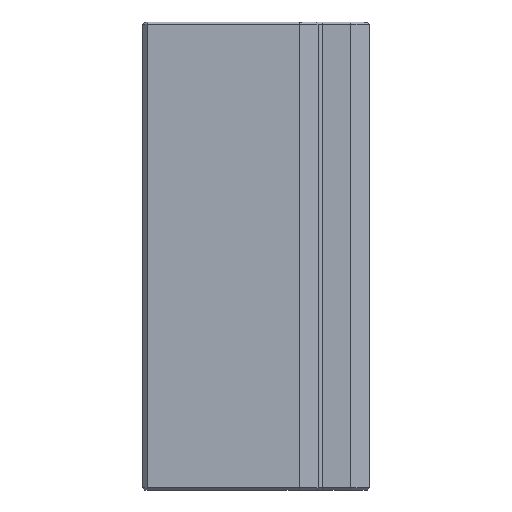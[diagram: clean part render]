
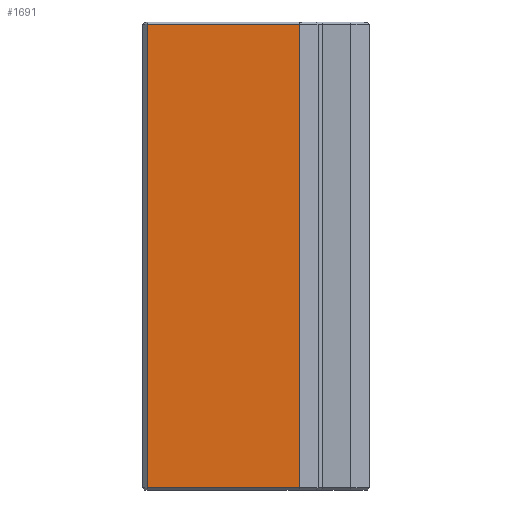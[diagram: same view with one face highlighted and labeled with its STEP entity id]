
A CAD part, left-side view. The second image highlights one B-rep face of the part: STEP entity #1691.
In plain terms, the highlighted planar face has unit normal (-1, 0, 0).
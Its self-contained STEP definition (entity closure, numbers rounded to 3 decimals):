
#261 = CARTESIAN_POINT ( 'NONE',  ( -24.202, -24.563, 100. ) ) ;
#399 = CARTESIAN_POINT ( 'NONE',  ( -24.202, -24.563, -99. ) ) ;
#976 = ORIENTED_EDGE ( 'NONE', *, *, #4157, .T. ) ;
#1102 = LINE ( 'NONE', #8691, #3572 ) ;
#1112 = DIRECTION ( 'NONE',  ( 0., 0., -1. ) ) ;
#1279 = DIRECTION ( 'NONE',  ( 0., -1., 0. ) ) ;
#1667 = CARTESIAN_POINT ( 'NONE',  ( -24.202, -24.563, 99. ) ) ;
#1691 = ADVANCED_FACE ( 'NONE', ( #12599 ), #2444, .F. ) ;
#2444 = PLANE ( 'NONE',  #6625 ) ;
#2905 = VERTEX_POINT ( 'NONE', #12179 ) ;
#3067 = ORIENTED_EDGE ( 'NONE', *, *, #8218, .T. ) ;
#3493 = CARTESIAN_POINT ( 'NONE',  ( -24.202, -24.563, 100. ) ) ;
#3572 = VECTOR ( 'NONE', #1279, 1000. ) ;
#3828 = VERTEX_POINT ( 'NONE', #399 ) ;
#4157 = EDGE_CURVE ( 'NONE', #8532, #5874, #8276, .T. ) ;
#4545 = DIRECTION ( 'NONE',  ( 0., 0., -1. ) ) ;
#4969 = LINE ( 'NONE', #9567, #12736 ) ;
#5501 = DIRECTION ( 'NONE',  ( 0., 0., -1. ) ) ;
#5650 = EDGE_CURVE ( 'NONE', #8532, #3828, #9208, .T. ) ;
#5874 = VERTEX_POINT ( 'NONE', #13390 ) ;
#6239 = DIRECTION ( 'NONE',  ( 0., 1., 0. ) ) ;
#6625 = AXIS2_PLACEMENT_3D ( 'NONE', #3493, #10886, #4545 ) ;
#8154 = EDGE_LOOP ( 'NONE', ( #3067, #12365, #11812, #976 ) ) ;
#8218 = EDGE_CURVE ( 'NONE', #5874, #2905, #4969, .T. ) ;
#8276 = LINE ( 'NONE', #8319, #10718 ) ;
#8319 = CARTESIAN_POINT ( 'NONE',  ( -24.202, 40.437, 99. ) ) ;
#8532 = VERTEX_POINT ( 'NONE', #1667 ) ;
#8691 = CARTESIAN_POINT ( 'NONE',  ( -24.202, -24.563, -99. ) ) ;
#9208 = LINE ( 'NONE', #261, #11990 ) ;
#9567 = CARTESIAN_POINT ( 'NONE',  ( -24.202, 40.437, 100. ) ) ;
#10718 = VECTOR ( 'NONE', #6239, 1000. ) ;
#10886 = DIRECTION ( 'NONE',  ( 1., 0., 0. ) ) ;
#11812 = ORIENTED_EDGE ( 'NONE', *, *, #5650, .F. ) ;
#11990 = VECTOR ( 'NONE', #5501, 1000. ) ;
#12179 = CARTESIAN_POINT ( 'NONE',  ( -24.202, 40.437, -99. ) ) ;
#12365 = ORIENTED_EDGE ( 'NONE', *, *, #13234, .T. ) ;
#12599 = FACE_OUTER_BOUND ( 'NONE', #8154, .T. ) ;
#12736 = VECTOR ( 'NONE', #1112, 1000. ) ;
#13234 = EDGE_CURVE ( 'NONE', #2905, #3828, #1102, .T. ) ;
#13390 = CARTESIAN_POINT ( 'NONE',  ( -24.202, 40.437, 99. ) ) ;
